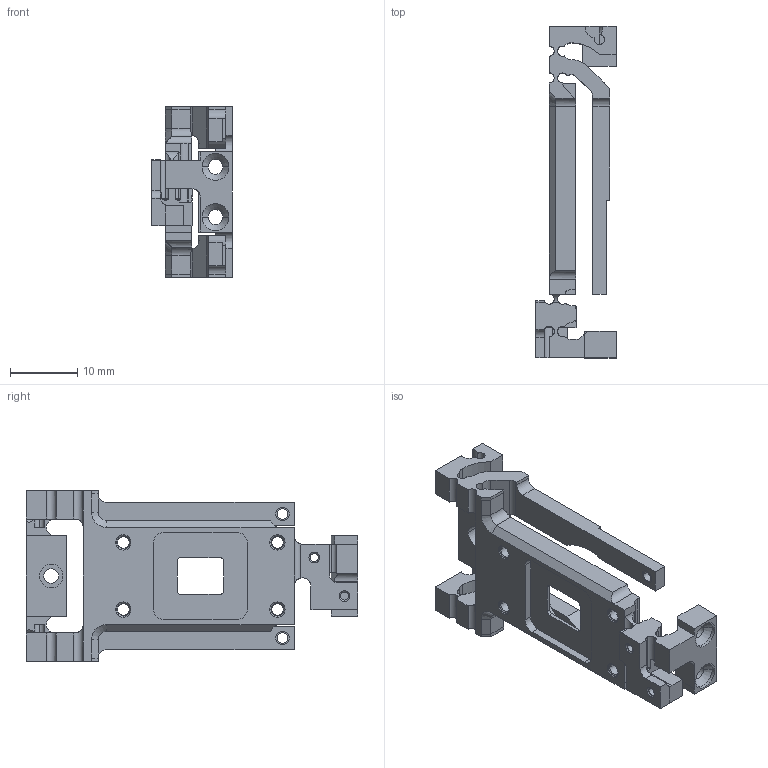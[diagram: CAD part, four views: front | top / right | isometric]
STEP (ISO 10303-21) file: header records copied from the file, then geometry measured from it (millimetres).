
FILE_DESCRIPTION(/* description */ ('VariCAD 2010-1.04 AP-203'),/* implementation_level */ '2;1');
FILE_NAME(/* name */ '0353-19-25',/* time_stamp */ '2010-01-13T10:50:14-07:00',/* author */ (''),/* organization */ (''),/* preprocessor_version */ 'ST-DEVELOPER v12',/* originating_system */ 'VariCAD 2010-1.04; kernel version (20090520)',/* authorisation */ '');
FILE_SCHEMA (('CONFIG_CONTROL_DESIGN'));
Length unit declared in the file: millimetre
Products named in the file (1): Part
Bounding box: 12 x 49.5 x 25.5 mm (x, y, z)
Volume: 3229.3 mm3; surface area: 4646.7 mm2
Topology: 9 solids, 9 shells, 354 faces, 941 edges, 599 vertices
Faces by surface type: cylinder 164, plane 140, cone 50
Entity records: 11507 total; most frequent: CARTESIAN_POINT 2394, DIRECTION 1936, ORIENTED_EDGE 1882, EDGE_CURVE 941, AXIS2_PLACEMENT_3D 696, VERTEX_POINT 599, LINE 544, VECTOR 544
